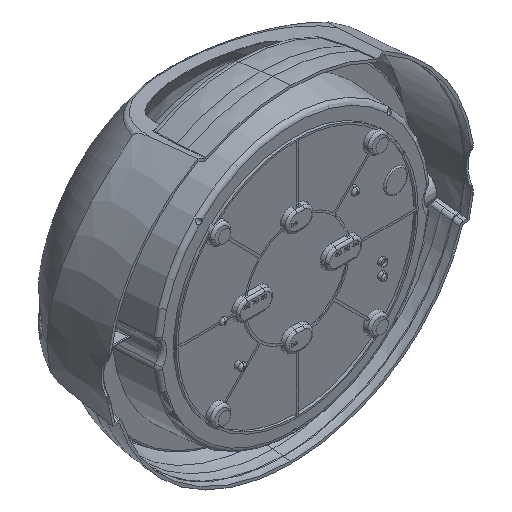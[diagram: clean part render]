
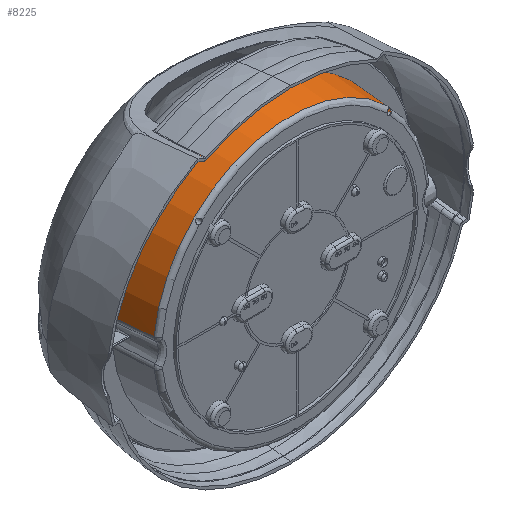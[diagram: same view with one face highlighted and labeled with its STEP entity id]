
A CAD part, isometric view. The second image highlights one B-rep face of the part: STEP entity #8225.
In plain terms, the highlighted conical face has half-angle 4 degrees and reference radius 111.908 mm.
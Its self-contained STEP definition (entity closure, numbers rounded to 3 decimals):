
#332=CARTESIAN_POINT('',(111.278,-16.744,11.085));
#333=CARTESIAN_POINT('',(111.261,-16.893,11.155));
#334=CARTESIAN_POINT('',(111.226,-17.194,11.29));
#335=CARTESIAN_POINT('',(111.175,-17.654,11.474));
#336=CARTESIAN_POINT('',(111.125,-18.121,11.639));
#337=CARTESIAN_POINT('',(111.076,-18.594,11.785));
#338=CARTESIAN_POINT('',(111.029,-19.072,11.912));
#339=CARTESIAN_POINT('',(110.984,-19.554,12.019));
#340=CARTESIAN_POINT('',(110.94,-20.041,12.108));
#341=CARTESIAN_POINT('',(110.898,-20.53,12.176));
#342=CARTESIAN_POINT('',(110.858,-21.021,12.225));
#343=CARTESIAN_POINT('',(110.82,-21.514,12.254));
#344=CARTESIAN_POINT('',(110.784,-22.007,12.263));
#345=CARTESIAN_POINT('',(110.751,-22.5,12.253));
#346=CARTESIAN_POINT('',(110.72,-22.991,12.223));
#347=CARTESIAN_POINT('',(110.691,-23.481,12.174));
#348=CARTESIAN_POINT('',(110.664,-23.968,12.105));
#349=CARTESIAN_POINT('',(110.64,-24.451,12.016));
#350=CARTESIAN_POINT('',(110.618,-24.931,11.909));
#351=CARTESIAN_POINT('',(110.598,-25.405,11.782));
#352=CARTESIAN_POINT('',(110.58,-25.874,11.637));
#353=CARTESIAN_POINT('',(110.565,-26.337,11.473));
#354=CARTESIAN_POINT('',(110.556,-26.64,11.352));
#355=CARTESIAN_POINT('',(110.552,-26.791,11.288));
#357=CARTESIAN_POINT('',(0.,0.,0.));
#358=DIRECTION('',(0.,1.,0.));
#359=DIRECTION('',(-0.995,0.,0.095));
#360=AXIS2_PLACEMENT_3D('',#357,#358,#359);
#615=CARTESIAN_POINT('',(-112.489,0.,
10.731));
#616=CARTESIAN_POINT('',(-112.235,-3.511,10.807));
#617=CARTESIAN_POINT('',(-111.729,-10.508,10.957));
#618=CARTESIAN_POINT('',(-110.976,-20.922,11.171));
#619=CARTESIAN_POINT('',(-110.478,-27.812,11.309));
#620=CARTESIAN_POINT('',(-110.23,-31.244,11.377));
#675=CARTESIAN_POINT('',(111.278,-16.744,11.085));
#677=CARTESIAN_POINT('',(111.278,-16.744,11.085));
#678=CARTESIAN_POINT('',(111.412,-14.895,11.047));
#679=CARTESIAN_POINT('',(111.68,-11.189,10.97));
#680=CARTESIAN_POINT('',(112.084,-5.608,10.852));
#681=CARTESIAN_POINT('',(112.354,-1.872,10.772));
#682=CARTESIAN_POINT('',(112.489,0.,10.731));
#684=CARTESIAN_POINT('',(112.489,0.,10.731));
#759=CARTESIAN_POINT('',(110.23,-31.244,11.377));
#760=CARTESIAN_POINT('',(110.265,-30.75,11.367));
#761=CARTESIAN_POINT('',(110.337,-29.762,11.347));
#762=CARTESIAN_POINT('',(110.444,-28.277,11.318));
#763=CARTESIAN_POINT('',(110.516,-27.286,11.298));
#764=CARTESIAN_POINT('',(110.552,-26.791,11.288));
#1218=CARTESIAN_POINT('',(0.,-31.244,0.));
#1219=DIRECTION('',(0.,1.,0.));
#1220=DIRECTION('',(-0.995,0.,0.103));
#1221=AXIS2_PLACEMENT_3D('',#1218,#1219,#1220);
#3450=CARTESIAN_POINT('',(110.552,-26.791,11.288));
#6581=VERTEX_POINT('',#684);
#6585=CARTESIAN_POINT('',(-112.489,0.,
10.731));
#6586=VERTEX_POINT('',#6585);
#6591=CARTESIAN_POINT('',(-110.23,-31.244,
11.377));
#6592=CARTESIAN_POINT('',(110.23,-31.244,11.377));
#6593=VERTEX_POINT('',#6591);
#6594=VERTEX_POINT('',#6592);
#6626=VERTEX_POINT('',#675);
#6733=VERTEX_POINT('',#3450);
#8206=CARTESIAN_POINT('',(0.,-15.622,0.));
#8207=DIRECTION('',(0.,1.,0.));
#8208=DIRECTION('',(1.,0.,0.));
#8209=AXIS2_PLACEMENT_3D('',#8206,#8207,#8208);
#8210=CONICAL_SURFACE('',#8209,111.908,4.);
#8212=ORIENTED_EDGE('',*,*,#8211,.T.);
#8214=ORIENTED_EDGE('',*,*,#8213,.F.);
#8216=ORIENTED_EDGE('',*,*,#8215,.F.);
#8218=ORIENTED_EDGE('',*,*,#8217,.F.);
#8220=ORIENTED_EDGE('',*,*,#8219,.T.);
#8222=ORIENTED_EDGE('',*,*,#8221,.F.);
#8223=EDGE_LOOP('',(#8212,#8214,#8216,#8218,#8220,#8222));
#8224=FACE_OUTER_BOUND('',#8223,.F.);
#8225=ADVANCED_FACE('',(#8224),#8210,.T.);
#356=B_SPLINE_CURVE_WITH_KNOTS('',3,(#332,#333,#334,#335,#336,#337,#338,#339,
#340,#341,#342,#343,#344,#345,#346,#347,#348,#349,#350,#351,#352,#353,#354,
#355),.UNSPECIFIED.,.F.,.F.,(4,1,1,1,1,1,1,1,1,1,1,1,1,1,1,1,1,1,1,1,1,4),(0.,
0.048,0.095,0.143,0.19,
0.238,0.286,0.333,0.381,
0.429,0.476,0.524,0.571,
0.619,0.667,0.714,0.762,
0.81,0.857,0.905,0.952,1.),
.UNSPECIFIED.);
#361=CIRCLE('',#360,113.);
#621=B_SPLINE_CURVE_WITH_KNOTS('',3,(#615,#616,#617,#618,#619,#620),
.UNSPECIFIED.,.F.,.F.,(4,1,1,4),(0.,0.333,0.667,1.),
.UNSPECIFIED.);
#683=B_SPLINE_CURVE_WITH_KNOTS('',3,(#677,#678,#679,#680,#681,#682),
.UNSPECIFIED.,.F.,.F.,(4,1,1,4),(0.,0.333,0.667,1.),
.UNSPECIFIED.);
#765=B_SPLINE_CURVE_WITH_KNOTS('',3,(#759,#760,#761,#762,#763,#764),
.UNSPECIFIED.,.F.,.F.,(4,1,1,4),(0.,0.333,0.667,1.),
.UNSPECIFIED.);
#1222=CIRCLE('',#1221,110.815);
#8211=EDGE_CURVE('',#6626,#6733,#356,.T.);
#8213=EDGE_CURVE('',#6594,#6733,#765,.T.);
#8215=EDGE_CURVE('',#6593,#6594,#1222,.T.);
#8217=EDGE_CURVE('',#6586,#6593,#621,.T.);
#8219=EDGE_CURVE('',#6586,#6581,#361,.T.);
#8221=EDGE_CURVE('',#6626,#6581,#683,.T.);
